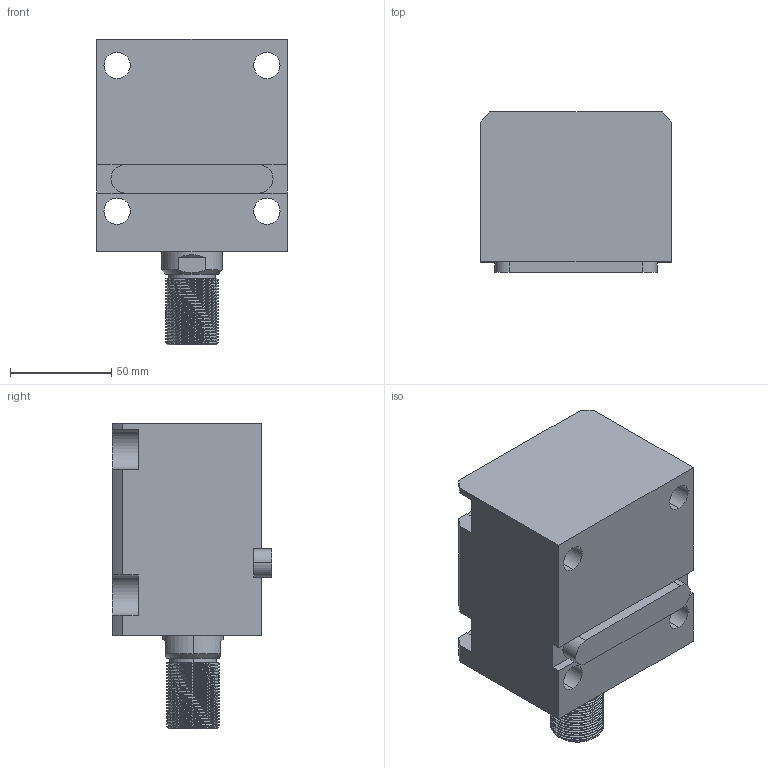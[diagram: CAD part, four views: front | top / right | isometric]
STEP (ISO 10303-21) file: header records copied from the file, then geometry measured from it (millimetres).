
FILE_DESCRIPTION (( 'STEP AP203' ), '1' );
FILE_NAME ('CHTB-LA50-45W.STEP', '2018-05-18T01:31:50', ( '' ), ( '' ), 'SwSTEP 2.0', 'SolidWorks 2015', '' );
FILE_SCHEMA (( 'CONFIG_CONTROL_DESIGN' ));
Length unit declared in the file: millimetre
Products named in the file (4): CHTB-LA50-45W; 活塞杆LA50-45W; 掛极LA50-45W; CHTM-SDMA50QG
Assembly tree (3 placements, depth 2):
  CHTB-LA50-45W
    掛极LA50-45W
    活塞杆LA50-45W
    CHTM-SDMA50QG
Bounding box: 94 x 79 x 151 mm (x, y, z)
Volume: 644027.9 mm3; surface area: 112984.1 mm2
Topology: 3 solids, 3 shells, 244 faces, 670 edges, 447 vertices
Faces by surface type: cylinder 136, plane 55, cone 21, bspline 16, torus 16
Entity records: 15046 total; most frequent: CARTESIAN_POINT 8903, ORIENTED_EDGE 1332, DIRECTION 1073, EDGE_CURVE 666, VERTEX_POINT 447, AXIS2_PLACEMENT_3D 416, EDGE_LOOP 277, ADVANCED_FACE 244
